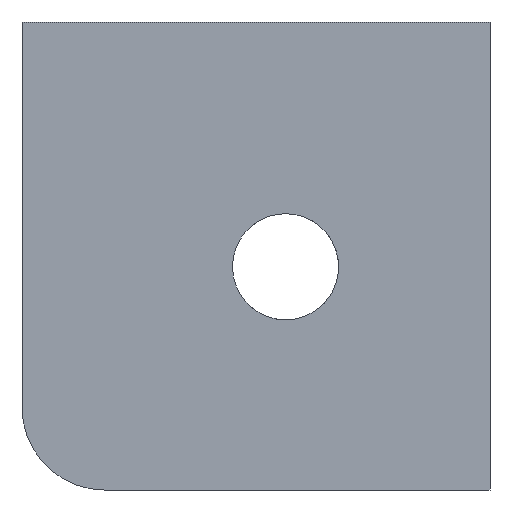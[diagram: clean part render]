
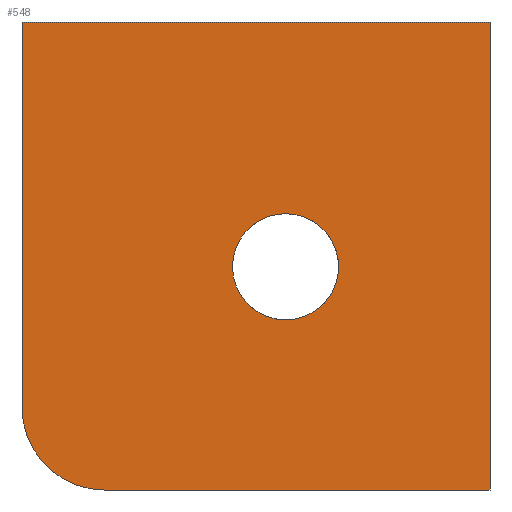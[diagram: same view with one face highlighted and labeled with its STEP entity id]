
A CAD part, front view. The second image highlights one B-rep face of the part: STEP entity #548.
In plain terms, the highlighted planar face has unit normal (0, -1, 0).
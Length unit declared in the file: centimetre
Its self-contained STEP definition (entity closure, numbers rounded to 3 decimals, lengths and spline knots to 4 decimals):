
#28 = LINE ( 'NONE', #730, #933 ) ;
#30 = ORIENTED_EDGE ( 'NONE', *, *, #107, .T. ) ;
#43 = EDGE_CURVE ( 'NONE', #911, #100, #382, .T. ) ;
#66 = DIRECTION ( 'NONE',  ( 0., 0., 1. ) ) ;
#75 = ORIENTED_EDGE ( 'NONE', *, *, #341, .F. ) ;
#99 = EDGE_CURVE ( 'NONE', #100, #814, #1051, .T. ) ;
#100 = VERTEX_POINT ( 'NONE', #684 ) ;
#107 = EDGE_CURVE ( 'NONE', #998, #407, #786, .T. ) ;
#115 = VERTEX_POINT ( 'NONE', #1002 ) ;
#120 = DIRECTION ( 'NONE',  ( 1., 0., 0. ) ) ;
#155 = DIRECTION ( 'NONE',  ( 0., 1., 0. ) ) ;
#168 = ORIENTED_EDGE ( 'NONE', *, *, #43, .T. ) ;
#183 = CARTESIAN_POINT ( 'NONE',  ( 0., 0., 1000. ) ) ;
#218 = CARTESIAN_POINT ( 'NONE',  ( 563.1463, 0., 476.9942 ) ) ;
#249 = AXIS2_PLACEMENT_3D ( 'NONE', #913, #473, #570 ) ;
#255 = CARTESIAN_POINT ( 'NONE',  ( 0., 0., 0. ) ) ;
#278 = DIRECTION ( 'NONE',  ( 0., 0., -1. ) ) ;
#297 = EDGE_CURVE ( 'NONE', #875, #115, #1077, .T. ) ;
#303 = CIRCLE ( 'NONE', #378, 113.4103 ) ;
#304 = EDGE_CURVE ( 'NONE', #407, #998, #303, .T. ) ;
#337 = DIRECTION ( 'NONE',  ( 0., 0., 1. ) ) ;
#341 = EDGE_CURVE ( 'NONE', #115, #814, #28, .T. ) ;
#367 = DIRECTION ( 'NONE',  ( 0., 0., -1. ) ) ;
#378 = AXIS2_PLACEMENT_3D ( 'NONE', #218, #987, #815 ) ;
#382 = CIRCLE ( 'NONE', #1118, 176.2898 ) ;
#390 = CARTESIAN_POINT ( 'NONE',  ( 0., 0., 1000. ) ) ;
#407 = VERTEX_POINT ( 'NONE', #715 ) ;
#428 = DIRECTION ( 'NONE',  ( 0., -1., 0. ) ) ;
#443 = EDGE_CURVE ( 'NONE', #875, #911, #451, .T. ) ;
#451 = LINE ( 'NONE', #721, #859 ) ;
#473 = DIRECTION ( 'NONE',  ( 0., 1., 0. ) ) ;
#497 = VECTOR ( 'NONE', #619, 100. ) ;
#545 = EDGE_LOOP ( 'NONE', ( #1064, #30 ) ) ;
#548 = ADVANCED_FACE ( 'NONE', ( #818, #558 ), #985, .F. ) ;
#558 = FACE_OUTER_BOUND ( 'NONE', #817, .T. ) ;
#570 = DIRECTION ( 'NONE',  ( 0., 0., 1. ) ) ;
#583 = CARTESIAN_POINT ( 'NONE',  ( 1000., 0., 0. ) ) ;
#619 = DIRECTION ( 'NONE',  ( 1., 0., 0. ) ) ;
#624 = AXIS2_PLACEMENT_3D ( 'NONE', #947, #155, #66 ) ;
#658 = CARTESIAN_POINT ( 'NONE',  ( 0., 0., 176.2898 ) ) ;
#684 = CARTESIAN_POINT ( 'NONE',  ( 176.2898, 0., 0. ) ) ;
#701 = ORIENTED_EDGE ( 'NONE', *, *, #297, .F. ) ;
#715 = CARTESIAN_POINT ( 'NONE',  ( 563.1463, 0., 590.4045 ) ) ;
#721 = CARTESIAN_POINT ( 'NONE',  ( 0., 0., 1000. ) ) ;
#730 = CARTESIAN_POINT ( 'NONE',  ( 1000., 0., 1000. ) ) ;
#768 = CARTESIAN_POINT ( 'NONE',  ( 176.2898, 0., 176.2898 ) ) ;
#786 = CIRCLE ( 'NONE', #624, 113.4103 ) ;
#814 = VERTEX_POINT ( 'NONE', #583 ) ;
#815 = DIRECTION ( 'NONE',  ( 0., 0., 1. ) ) ;
#817 = EDGE_LOOP ( 'NONE', ( #1086, #168, #891, #75, #701 ) ) ;
#818 = FACE_BOUND ( 'NONE', #545, .T. ) ;
#859 = VECTOR ( 'NONE', #367, 100. ) ;
#875 = VERTEX_POINT ( 'NONE', #183 ) ;
#891 = ORIENTED_EDGE ( 'NONE', *, *, #99, .T. ) ;
#911 = VERTEX_POINT ( 'NONE', #658 ) ;
#913 = CARTESIAN_POINT ( 'NONE',  ( 0., 0., 1000. ) ) ;
#933 = VECTOR ( 'NONE', #278, 100. ) ;
#947 = CARTESIAN_POINT ( 'NONE',  ( 563.1463, 0., 476.9942 ) ) ;
#985 = PLANE ( 'NONE',  #249 ) ;
#987 = DIRECTION ( 'NONE',  ( 0., 1., 0. ) ) ;
#998 = VERTEX_POINT ( 'NONE', #1124 ) ;
#1002 = CARTESIAN_POINT ( 'NONE',  ( 1000., 0., 1000. ) ) ;
#1051 = LINE ( 'NONE', #255, #497 ) ;
#1064 = ORIENTED_EDGE ( 'NONE', *, *, #304, .T. ) ;
#1077 = LINE ( 'NONE', #390, #1136 ) ;
#1086 = ORIENTED_EDGE ( 'NONE', *, *, #443, .T. ) ;
#1118 = AXIS2_PLACEMENT_3D ( 'NONE', #768, #428, #337 ) ;
#1124 = CARTESIAN_POINT ( 'NONE',  ( 563.1463, 0., 363.584 ) ) ;
#1136 = VECTOR ( 'NONE', #120, 100. ) ;
